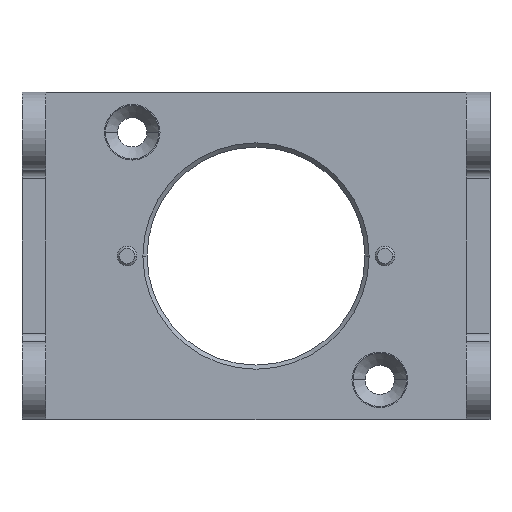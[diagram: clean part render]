
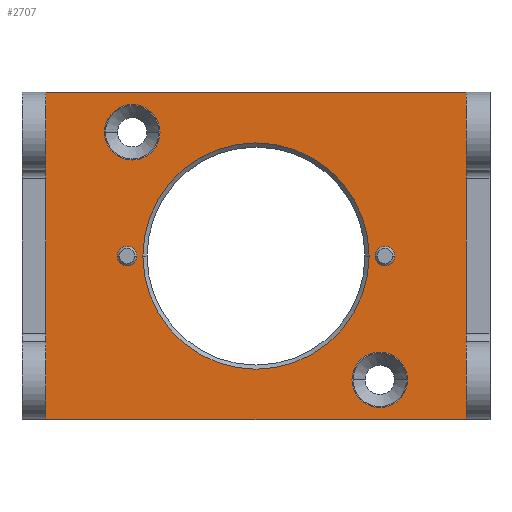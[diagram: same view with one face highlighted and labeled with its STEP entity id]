
A CAD part, top view. The second image highlights one B-rep face of the part: STEP entity #2707.
In plain terms, the highlighted planar face has unit normal (0, 0, 1).
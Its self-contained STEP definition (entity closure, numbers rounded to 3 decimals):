
#332=DIRECTION('',(-1.,0.,0.));
#333=VECTOR('',#332,50.927);
#334=CARTESIAN_POINT('',(19.017,-22.543,-1.474));
#335=LINE('',#334,#333);
#990=DIRECTION('',(-1.,0.,0.));
#991=VECTOR('',#990,50.927);
#992=CARTESIAN_POINT('',(19.017,17.081,-1.474));
#993=LINE('',#992,#991);
#994=CARTESIAN_POINT('',(-6.446,-2.731,
-1.474));
#995=DIRECTION('',(0.,0.,-1.));
#996=DIRECTION('',(1.,0.,0.));
#997=AXIS2_PLACEMENT_3D('',#994,#995,#996);
#999=CARTESIAN_POINT('',(-6.446,-2.731,
-1.474));
#1000=DIRECTION('',(0.,0.,-1.));
#1001=DIRECTION('',(-1.,0.,0.));
#1002=AXIS2_PLACEMENT_3D('',#999,#1000,#1001);
#1004=CARTESIAN_POINT('',(9.175,-2.731,
-1.474));
#1005=DIRECTION('',(0.,0.,-1.));
#1006=DIRECTION('',(-1.,0.,0.));
#1007=AXIS2_PLACEMENT_3D('',#1004,#1005,#1006);
#1009=CARTESIAN_POINT('',(9.175,-2.731,
-1.474));
#1010=DIRECTION('',(0.,0.,-1.));
#1011=DIRECTION('',(1.,0.,0.));
#1012=AXIS2_PLACEMENT_3D('',#1009,#1010,#1011);
#1014=CARTESIAN_POINT('',(-22.067,-2.731,
-1.474));
#1015=DIRECTION('',(0.,0.,-1.));
#1016=DIRECTION('',(-1.,0.,0.));
#1017=AXIS2_PLACEMENT_3D('',#1014,#1015,#1016);
#1019=CARTESIAN_POINT('',(-22.067,-2.731,
-1.474));
#1020=DIRECTION('',(0.,0.,-1.));
#1021=DIRECTION('',(1.,0.,0.));
#1022=AXIS2_PLACEMENT_3D('',#1019,#1020,#1021);
#1024=CARTESIAN_POINT('',(8.554,-17.731,
-1.474));
#1025=DIRECTION('',(0.,0.,-1.));
#1026=DIRECTION('',(-1.,0.,0.));
#1027=AXIS2_PLACEMENT_3D('',#1024,#1025,#1026);
#1029=CARTESIAN_POINT('',(8.554,-17.731,
-1.474));
#1030=DIRECTION('',(0.,0.,-1.));
#1031=DIRECTION('',(1.,0.,0.));
#1032=AXIS2_PLACEMENT_3D('',#1029,#1030,#1031);
#1034=CARTESIAN_POINT('',(-21.446,12.269,
-1.474));
#1035=DIRECTION('',(0.,0.,-1.));
#1036=DIRECTION('',(-1.,0.,0.));
#1037=AXIS2_PLACEMENT_3D('',#1034,#1035,#1036);
#1039=CARTESIAN_POINT('',(-21.446,12.269,
-1.474));
#1040=DIRECTION('',(0.,0.,-1.));
#1041=DIRECTION('',(1.,0.,0.));
#1042=AXIS2_PLACEMENT_3D('',#1039,#1040,#1041);
#1044=DIRECTION('',(0.,1.,0.));
#1045=VECTOR('',#1044,39.624);
#1046=CARTESIAN_POINT('',(-31.91,-22.543,
-1.474));
#1047=LINE('',#1046,#1045);
#1056=DIRECTION('',(0.,-1.,0.));
#1057=VECTOR('',#1056,39.624);
#1058=CARTESIAN_POINT('',(19.017,17.081,-1.474));
#1059=LINE('',#1058,#1057);
#1419=CARTESIAN_POINT('',(5.188,-17.731,
-1.474));
#1421=VERTEX_POINT('',#1419);
#1423=CARTESIAN_POINT('',(11.919,-17.731,
-1.474));
#1424=VERTEX_POINT('',#1423);
#1433=CARTESIAN_POINT('',(-20.877,-2.731,
-1.474));
#1435=VERTEX_POINT('',#1433);
#1443=CARTESIAN_POINT('',(-18.081,12.269,
-1.474));
#1445=VERTEX_POINT('',#1443);
#1455=CARTESIAN_POINT('',(-31.91,17.081,
-1.474));
#1456=VERTEX_POINT('',#1455);
#1481=CARTESIAN_POINT('',(19.017,17.081,-1.474));
#1482=VERTEX_POINT('',#1481);
#1483=CARTESIAN_POINT('',(-24.812,12.269,
-1.474));
#1484=VERTEX_POINT('',#1483);
#1485=CARTESIAN_POINT('',(-23.257,-2.731,
-1.474));
#1486=VERTEX_POINT('',#1485);
#1513=CARTESIAN_POINT('',(10.365,-2.731,
-1.474));
#1514=CARTESIAN_POINT('',(7.985,-2.731,
-1.474));
#1515=VERTEX_POINT('',#1513);
#1516=VERTEX_POINT('',#1514);
#1517=CARTESIAN_POINT('',(-20.162,-2.731,
-1.474));
#1518=VERTEX_POINT('',#1517);
#1561=CARTESIAN_POINT('',(7.27,-2.731,
-1.474));
#1562=VERTEX_POINT('',#1561);
#1673=CARTESIAN_POINT('',(-31.91,-22.543,
-1.474));
#1674=VERTEX_POINT('',#1673);
#1693=CARTESIAN_POINT('',(19.017,-22.543,
-1.474));
#1694=VERTEX_POINT('',#1693);
#2666=CARTESIAN_POINT('',(-31.91,17.081,
-1.474));
#2667=DIRECTION('',(0.,0.,-1.));
#2668=DIRECTION('',(-1.,0.,0.));
#2669=AXIS2_PLACEMENT_3D('',#2666,#2667,#2668);
#2670=PLANE('',#2669);
#2671=ORIENTED_EDGE('',*,*,#1884,.T.);
#2673=ORIENTED_EDGE('',*,*,#2672,.T.);
#2674=ORIENTED_EDGE('',*,*,#1766,.F.);
#2676=ORIENTED_EDGE('',*,*,#2675,.T.);
#2677=EDGE_LOOP('',(#2671,#2673,#2674,#2676));
#2678=FACE_OUTER_BOUND('',#2677,.F.);
#2679=ORIENTED_EDGE('',*,*,#2660,.F.);
#2680=ORIENTED_EDGE('',*,*,#2645,.F.);
#2681=EDGE_LOOP('',(#2679,#2680));
#2682=FACE_BOUND('',#2681,.F.);
#2684=ORIENTED_EDGE('',*,*,#2683,.F.);
#2686=ORIENTED_EDGE('',*,*,#2685,.F.);
#2687=EDGE_LOOP('',(#2684,#2686));
#2688=FACE_BOUND('',#2687,.F.);
#2690=ORIENTED_EDGE('',*,*,#2689,.F.);
#2692=ORIENTED_EDGE('',*,*,#2691,.F.);
#2693=EDGE_LOOP('',(#2690,#2692));
#2694=FACE_BOUND('',#2693,.F.);
#2696=ORIENTED_EDGE('',*,*,#2695,.F.);
#2698=ORIENTED_EDGE('',*,*,#2697,.F.);
#2699=EDGE_LOOP('',(#2696,#2698));
#2700=FACE_BOUND('',#2699,.F.);
#2702=ORIENTED_EDGE('',*,*,#2701,.F.);
#2704=ORIENTED_EDGE('',*,*,#2703,.F.);
#2705=EDGE_LOOP('',(#2702,#2704));
#2706=FACE_BOUND('',#2705,.F.);
#2707=ADVANCED_FACE('',(#2678,#2682,#2688,#2694,#2700,#2706),#2670,.F.);
#998=CIRCLE('',#997,13.716);
#1003=CIRCLE('',#1002,13.716);
#1008=CIRCLE('',#1007,1.19);
#1013=CIRCLE('',#1012,1.19);
#1018=CIRCLE('',#1017,1.19);
#1023=CIRCLE('',#1022,1.19);
#1028=CIRCLE('',#1027,3.366);
#1033=CIRCLE('',#1032,3.366);
#1038=CIRCLE('',#1037,3.366);
#1043=CIRCLE('',#1042,3.366);
#1766=EDGE_CURVE('',#1482,#1456,#993,.T.);
#1884=EDGE_CURVE('',#1694,#1674,#335,.T.);
#2645=EDGE_CURVE('',#1518,#1562,#1003,.T.);
#2660=EDGE_CURVE('',#1562,#1518,#998,.T.);
#2672=EDGE_CURVE('',#1674,#1456,#1047,.T.);
#2675=EDGE_CURVE('',#1482,#1694,#1059,.T.);
#2683=EDGE_CURVE('',#1516,#1515,#1008,.T.);
#2685=EDGE_CURVE('',#1515,#1516,#1013,.T.);
#2689=EDGE_CURVE('',#1486,#1435,#1018,.T.);
#2691=EDGE_CURVE('',#1435,#1486,#1023,.T.);
#2695=EDGE_CURVE('',#1421,#1424,#1028,.T.);
#2697=EDGE_CURVE('',#1424,#1421,#1033,.T.);
#2701=EDGE_CURVE('',#1484,#1445,#1038,.T.);
#2703=EDGE_CURVE('',#1445,#1484,#1043,.T.);
